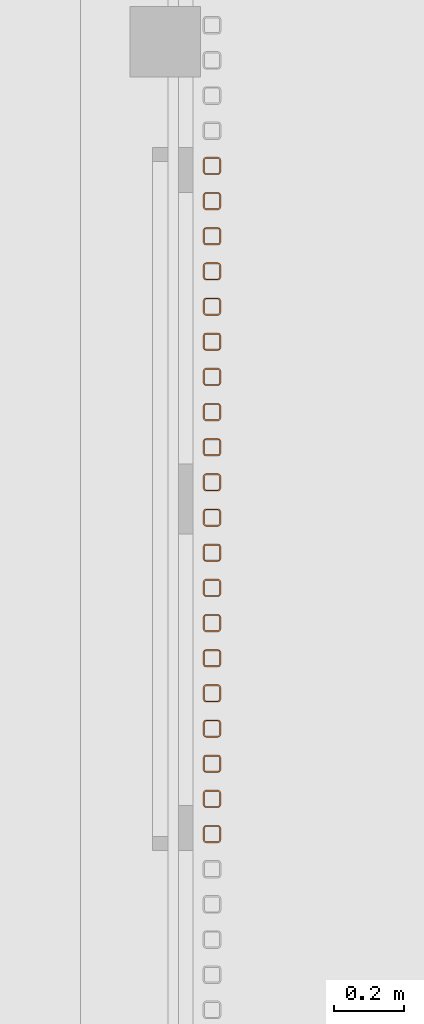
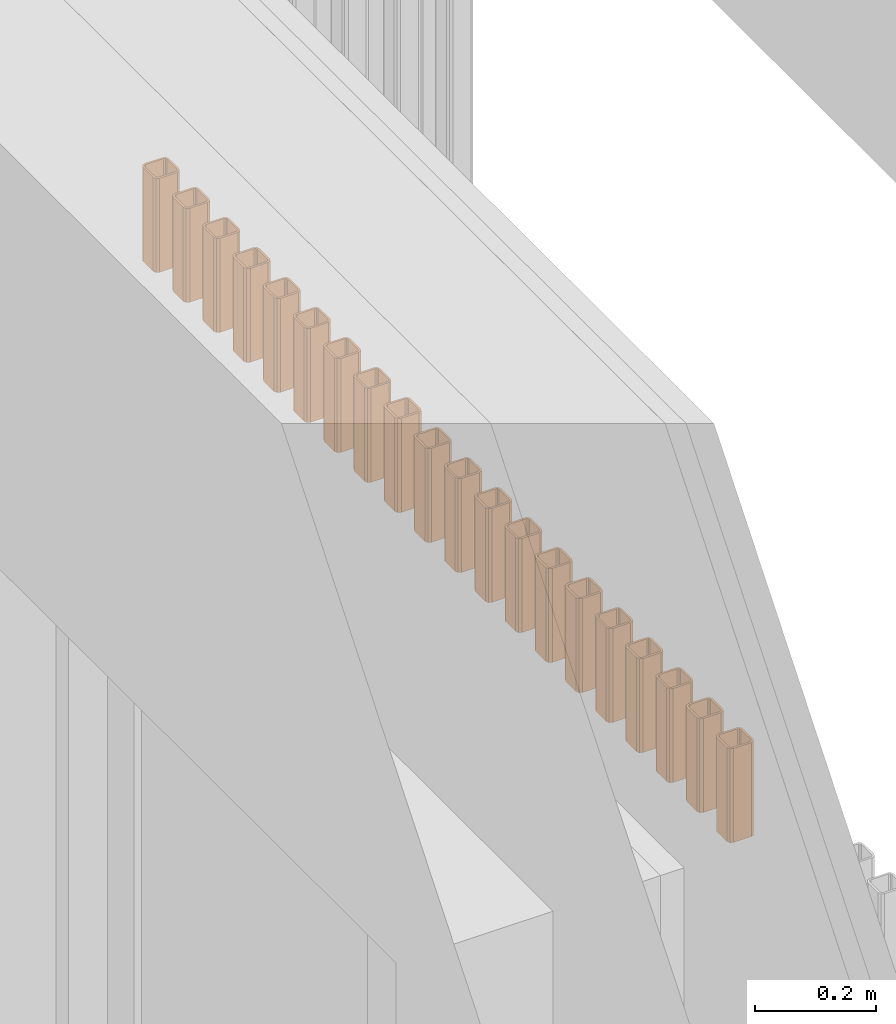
# One storey, part 93 of 112: 20 proxies.
"""IFC2X3 building model written with IfcOpenShell, lengths in millimetres."""

from ifc_helpers import new_model, entity, si_unit, converted_unit, derived_unit, money_unit, direction, frame, origin_with_axes, place, context, subcontext, project, spatial, faceted_brep, source, transform, mapped, material, type_object, element, save


model = new_model("IFC2X3")

# Units and contexts
model_context = context("Model", 3, precision=0.01, world=origin_with_axes(), true_north=direction((0.0, 1.0)))
body_context = subcontext(model_context, "Body", "Model", "MODEL_VIEW")
ifc_project = project(units=[si_unit("LENGTHUNIT", "METRE", prefix="MILLI"), si_unit("AREAUNIT", "SQUARE_METRE"), si_unit("VOLUMEUNIT", "CUBIC_METRE"), converted_unit("PLANEANGLEUNIT", "DEGREE", entity("IfcPlaneAngleMeasure", 0.0174532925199), si_unit("PLANEANGLEUNIT", "RADIAN"), dimensions=[0, 0, 0, 0, 0, 0, 0]), si_unit("SOLIDANGLEUNIT", "STERADIAN"), money_unit("EUR"), converted_unit("TIMEUNIT", "Year", entity("IfcTimeMeasure", 31556926.0), si_unit("TIMEUNIT", "SECOND"), dimensions=[0, 0, 1, 0, 0, 0, 0]), si_unit("MASSUNIT", "GRAM", prefix="KILO"), si_unit("THERMODYNAMICTEMPERATUREUNIT", "DEGREE_CELSIUS"), si_unit("LUMINOUSINTENSITYUNIT", "LUMEN"), si_unit("ENERGYUNIT", "JOULE", prefix="MEGA"), derived_unit("THERMALCONDUCTANCEUNIT", [(si_unit("POWERUNIT", "WATT"), 1), (si_unit("LENGTHUNIT", "METRE"), -1), (si_unit("THERMODYNAMICTEMPERATUREUNIT", "KELVIN"), -1)]), derived_unit("SPECIFICHEATCAPACITYUNIT", [(si_unit("ENERGYUNIT", "JOULE"), 1), (si_unit("MASSUNIT", "GRAM", prefix="KILO"), -1), (si_unit("THERMODYNAMICTEMPERATUREUNIT", "KELVIN"), -1)]), derived_unit("MASSDENSITYUNIT", [(si_unit("MASSUNIT", "GRAM", prefix="KILO"), 1), (si_unit("VOLUMEUNIT", "CUBIC_METRE"), -1)])], contexts=[model_context])

# Site, building, storey
site_placement = place(None, origin_with_axes())
site = spatial("IfcSite", under=ifc_project, at=site_placement, Name="Politse- ja Piirivalveameti ning Päästeameti ühishoone", CompositionType="ELEMENT")
building_placement = place(site_placement, origin_with_axes())
building = spatial("IfcBuilding", under=site, at=building_placement, Name="Politse- ja Piirivalveameti ning Päästeameti ühishoone", CompositionType="ELEMENT")
storey_placement = place(building_placement, origin_with_axes())
storey = spatial("IfcBuildingStorey", under=building, at=storey_placement, Name="Esimene korrus", CompositionType="ELEMENT", Elevation=0.0)

# Proxies
ifc_material = material(Name="ET-05_Teras")
building_element_proxy_type = type_object("IfcBuildingElementProxyType", Name="SHS Cold-Formed Column 23", PredefinedType="NOTDEFINED")
shared_shape = source(origin_with_axes(), body_context, "Body", "Brep", [
    faceted_brep([(-17.0, -25.0, 0.0), (17.0, -25.0, 0.0), (17.0, -25.0, 190.0), (-17.0, -25.0, 190.0), (-22.6568542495, -22.6568542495, 0.0), (-25.0, -17.0, 0.0), (-25.0, 17.0, 0.0), (-22.6568542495, 22.6568542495, 0.0), (-17.0, 25.0, 0.0), (17.0, 25.0, 0.0), (22.6568542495, 22.6568542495, 0.0), (25.0, 17.0, 0.0), (25.0, -17.0, 0.0), (22.6568542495, -22.6568542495, 0.0), (-17.0, -21.0, 0.0), (17.0, -21.0, 0.0), (19.8284271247, -19.8284271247, 0.0), (21.0, -17.0, 0.0), (21.0, 17.0, 0.0), (19.8284271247, 19.8284271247, 0.0), (17.0, 21.0, 0.0), (-17.0, 21.0, 0.0), (-19.8284271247, 19.8284271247, 0.0), (-21.0, 17.0, 0.0), (-21.0, -17.0, 0.0), (-19.8284271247, -19.8284271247, 0.0), (22.6568542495, -22.6568542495, 190.0), (25.0, -17.0, 190.0), (25.0, 17.0, 190.0), (22.6568542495, 22.6568542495, 190.0), (17.0, 25.0, 190.0), (-17.0, 25.0, 190.0), (-22.6568542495, 22.6568542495, 190.0), (-25.0, 17.0, 190.0), (-25.0, -17.0, 190.0), (-22.6568542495, -22.6568542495, 190.0), (-17.0, -21.0, 190.0), (-19.8284271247, -19.8284271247, 190.0), (-21.0, -17.0, 190.0), (-21.0, 17.0, 190.0), (-19.8284271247, 19.8284271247, 190.0), (-17.0, 21.0, 190.0), (17.0, 21.0, 190.0), (19.8284271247, 19.8284271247, 190.0), (21.0, 17.0, 190.0), (21.0, -17.0, 190.0), (19.8284271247, -19.8284271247, 190.0), (17.0, -21.0, 190.0)], [[[0, 1, 2, 3]], [[0, 4, 5, 6, 7, 8, 9, 10, 11, 12, 13, 1], [14, 15, 16, 17, 18, 19, 20, 21, 22, 23, 24, 25]], [[1, 13, 26, 2]], [[3, 2, 26, 27, 28, 29, 30, 31, 32, 33, 34, 35], [36, 37, 38, 39, 40, 41, 42, 43, 44, 45, 46, 47]], [[4, 0, 3, 35]], [[5, 4, 35, 34]], [[6, 5, 34, 33]], [[7, 6, 33, 32]], [[8, 7, 32, 31]], [[9, 8, 31, 30]], [[10, 9, 30, 29]], [[11, 10, 29, 28]], [[12, 11, 28, 27]], [[13, 12, 27, 26]], [[15, 14, 36, 47]], [[16, 15, 47, 46]], [[17, 16, 46, 45]], [[18, 17, 45, 44]], [[19, 18, 44, 43]], [[20, 19, 43, 42]], [[21, 20, 42, 41]], [[22, 21, 41, 40]], [[23, 22, 40, 39]], [[24, 23, 39, 38]], [[25, 24, 38, 37]], [[14, 25, 37, 36]]]),
])
for number, where, z_axis, x_axis in (
    (1, (68635.2095212, 13950.0702441, 2600.0), (0.0, 0.0, 1.0), (1.0, 0.0, 0.0)),
    (2, (68635.2095212, 13850.0702441, 2600.0), (0.0, 0.0, 1.0), (1.0, 0.0, 0.0)),
    (3, (68635.2095212, 13750.0702441, 2600.0), (0.0, 0.0, 1.0), (1.0, 0.0, 0.0)),
    (4, (68635.2095212, 13650.0702441, 2600.0), (0.0, 0.0, 1.0), (1.0, 0.0, 0.0)),
    (5, (68635.2095212, 13550.0702441, 2600.0), (0.0, 0.0, 1.0), (1.0, 0.0, 0.0)),
    (6, (68635.2095212, 13450.0702441, 2600.0), (0.0, 0.0, 1.0), (1.0, 0.0, 0.0)),
    (7, (68635.2095212, 13350.0702441, 2600.0), (0.0, 0.0, 1.0), (1.0, 0.0, 0.0)),
    (8, (68635.2095212, 13250.0702441, 2600.0), (0.0, 0.0, 1.0), (1.0, 0.0, 0.0)),
    (9, (68635.2095212, 13150.0702441, 2600.0), (0.0, 0.0, 1.0), (1.0, 0.0, 0.0)),
    (10, (68635.2095212, 13050.0702441, 2600.0), (0.0, 0.0, 1.0), (1.0, 0.0, 0.0)),
    (11, (68635.2095212, 12950.0702441, 2600.0), (0.0, 0.0, 1.0), (1.0, 0.0, 0.0)),
    (12, (68635.2095212, 12850.0702441, 2600.0), (0.0, 0.0, 1.0), (1.0, 0.0, 0.0)),
    (13, (68635.2095212, 12750.0702441, 2600.0), (0.0, 0.0, 1.0), (1.0, 0.0, 0.0)),
    (14, (68635.2095212, 12650.0702441, 2600.0), (0.0, 0.0, 1.0), (1.0, 0.0, 0.0)),
    (15, (68635.2095212, 12550.0702441, 2600.0), (0.0, 0.0, 1.0), (1.0, 0.0, 0.0)),
    (16, (68635.2095212, 12450.0702441, 2600.0), (0.0, 0.0, 1.0), (1.0, 0.0, 0.0)),
    (17, (68635.2095212, 12350.0702441, 2600.0), (0.0, 0.0, 1.0), (1.0, 0.0, 0.0)),
    (18, (68635.2095212, 12250.0702441, 2600.0), (0.0, 0.0, 1.0), (1.0, 0.0, 0.0)),
    (19, (68635.2095212, 12150.0702441, 2600.0), (0.0, 0.0, 1.0), (1.0, 0.0, 0.0)),
    (20, (68635.2095212, 12050.0702441, 2600.0), (0.0, 0.0, 1.0), (1.0, 0.0, 0.0)),
):
    element("IfcBuildingElementProxy", number, at=place(storey_placement, frame(where, z_axis=z_axis, x_axis=x_axis)), inside=storey, type_object=building_element_proxy_type, material=ifc_material, Name="Fassaadiribid", context=body_context, shape_type="MappedRepresentation", body=[
        mapped(shared_shape, transform((0.0, 0.0, 0.0))),
    ])

save(model, "model.ifc")
